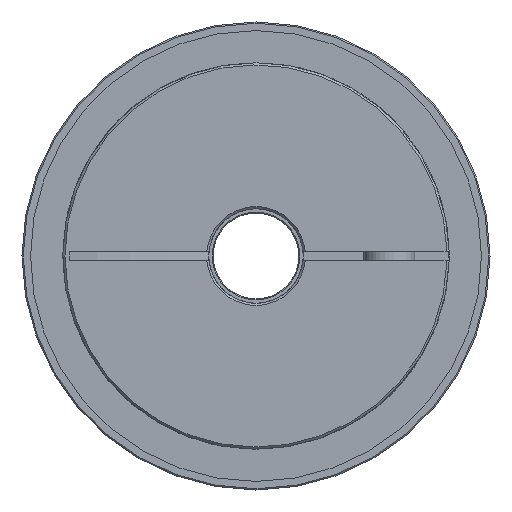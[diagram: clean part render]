
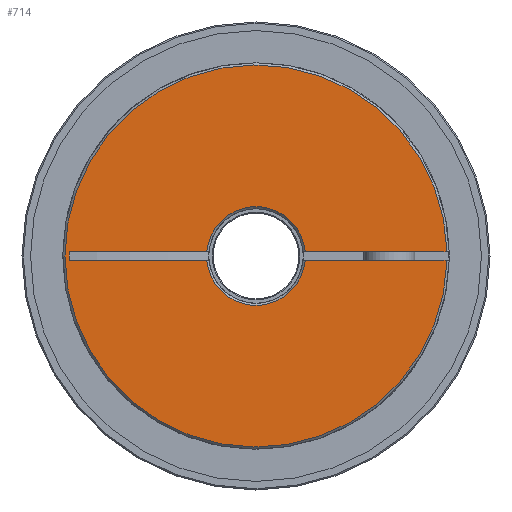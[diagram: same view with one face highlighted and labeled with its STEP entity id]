
A CAD part, left-side view. The second image highlights one B-rep face of the part: STEP entity #714.
In plain terms, the highlighted planar face has unit normal (-1, 0, 0).
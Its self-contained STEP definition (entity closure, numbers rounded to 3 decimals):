
#714 = ADVANCED_FACE( 'NONE', ( #1462 ), #1463, .F. );
#1462 = FACE_OUTER_BOUND( '', #2299, .T. );
#1463 = PLANE( '', #2300 );
#2299 = EDGE_LOOP( '', ( #3520, #3521, #3522, #3523, #3524, #3525, #3526, #3527 ) );
#2300 = AXIS2_PLACEMENT_3D( '', #3528, #3529, #3530 );
#3520 = ORIENTED_EDGE( '', *, *, #4237, .T. );
#3521 = ORIENTED_EDGE( '', *, *, #4209, .T. );
#3522 = ORIENTED_EDGE( '', *, *, #4537, .T. );
#3523 = ORIENTED_EDGE( '', *, *, #4518, .T. );
#3524 = ORIENTED_EDGE( '', *, *, #4299, .F. );
#3525 = ORIENTED_EDGE( '', *, *, #4508, .T. );
#3526 = ORIENTED_EDGE( '', *, *, #4538, .F. );
#3527 = ORIENTED_EDGE( '', *, *, #4333, .T. );
#3528 = CARTESIAN_POINT( '', ( 0., 11., 0. ) );
#3529 = DIRECTION( '', ( 1., 0., 0. ) );
#3530 = DIRECTION( '', ( 0., 1., 0. ) );
#4209 = EDGE_CURVE( 'NONE', #4802, #4800, #4803, .T. );
#4237 = EDGE_CURVE( 'NONE', #4848, #4802, #4849, .T. );
#4299 = EDGE_CURVE( 'NONE', #4949, #4951, #4952, .F. );
#4333 = EDGE_CURVE( 'NONE', #4998, #4848, #5001, .T. );
#4508 = EDGE_CURVE( 'NONE', #4949, #5262, #5264, .T. );
#4518 = EDGE_CURVE( 'NONE', #5277, #4951, #5278, .F. );
#4537 = EDGE_CURVE( 'NONE', #4800, #5277, #5301, .T. );
#4538 = EDGE_CURVE( 'NONE', #4998, #5262, #5302, .F. );
#4800 = VERTEX_POINT( 'NONE', #5669 );
#4802 = VERTEX_POINT( 'NONE', #5674 );
#4803 = CIRCLE( '', #5675, 11.5 );
#4848 = VERTEX_POINT( 'NONE', #5741 );
#4849 = LINE( '', #5742, #5743 );
#4949 = VERTEX_POINT( 'NONE', #5927 );
#4951 = VERTEX_POINT( 'NONE', #5932 );
#4952 = LINE( '', #5933, #5934 );
#4998 = VERTEX_POINT( 'NONE', #6003 );
#5001 = LINE( '', #6009, #6010 );
#5262 = VERTEX_POINT( 'NONE', #6479 );
#5264 = CIRCLE( '', #6484, 11.5 );
#5277 = VERTEX_POINT( 'NONE', #6499 );
#5278 = CIRCLE( '', #6500, 44.5 );
#5301 = LINE( '', #6611, #6612 );
#5302 = LINE( '', #6613, #6614 );
#5669 = CARTESIAN_POINT( '', ( 0., -11.456, 1. ) );
#5674 = CARTESIAN_POINT( '', ( 0., 11.456, 1. ) );
#5675 = AXIS2_PLACEMENT_3D( '', #7070, #7071, #7072 );
#5741 = CARTESIAN_POINT( '', ( 0., 43.508, 1. ) );
#5742 = CARTESIAN_POINT( '', ( 0., 11., 1. ) );
#5743 = VECTOR( '', #7103, 1000. );
#5927 = CARTESIAN_POINT( '', ( 0., -11.456, -1. ) );
#5932 = CARTESIAN_POINT( '', ( 0., -44.489, -1. ) );
#5933 = CARTESIAN_POINT( '', ( 0., -9., -1. ) );
#5934 = VECTOR( '', #7196, 1000. );
#6003 = CARTESIAN_POINT( '', ( 0., 43.508, -1. ) );
#6009 = CARTESIAN_POINT( '', ( 0., 43.508, -1. ) );
#6010 = VECTOR( '', #7235, 1000. );
#6479 = CARTESIAN_POINT( '', ( 0., 11.456, -1. ) );
#6484 = AXIS2_PLACEMENT_3D( '', #7491, #7492, #7493 );
#6499 = CARTESIAN_POINT( '', ( 0., -44.489, 1. ) );
#6500 = AXIS2_PLACEMENT_3D( '', #7505, #7506, #7507 );
#6611 = CARTESIAN_POINT( '', ( 0., 11., 1. ) );
#6612 = VECTOR( '', #7526, 1000. );
#6613 = CARTESIAN_POINT( '', ( 0., -9., -1. ) );
#6614 = VECTOR( '', #7527, 1000. );
#7070 = CARTESIAN_POINT( '', ( 0., 0., 0. ) );
#7071 = DIRECTION( '', ( 1., 0., 0. ) );
#7072 = DIRECTION( '', ( 0., 0., -1. ) );
#7103 = DIRECTION( '', ( 0., -1., 0. ) );
#7196 = DIRECTION( '', ( 0., 1., 0. ) );
#7235 = DIRECTION( '', ( 0., 0., 1. ) );
#7491 = CARTESIAN_POINT( '', ( 0., 0., 0. ) );
#7492 = DIRECTION( '', ( 1., 0., 0. ) );
#7493 = DIRECTION( '', ( 0., 0., -1. ) );
#7505 = CARTESIAN_POINT( '', ( 0., 0., 0. ) );
#7506 = DIRECTION( '', ( 1., 0., 0. ) );
#7507 = DIRECTION( '', ( 0., 0., -1. ) );
#7526 = DIRECTION( '', ( 0., -1., 0. ) );
#7527 = DIRECTION( '', ( 0., 1., 0. ) );
